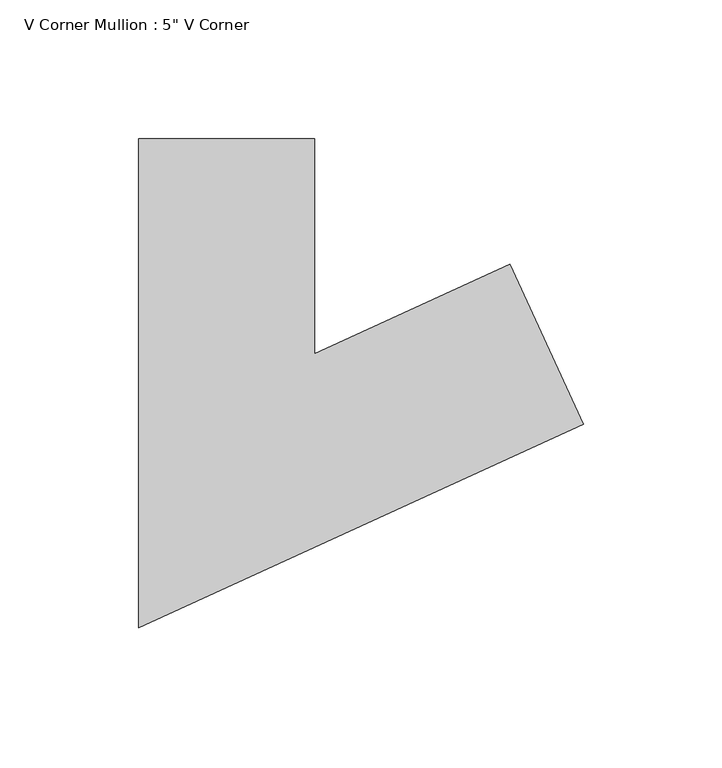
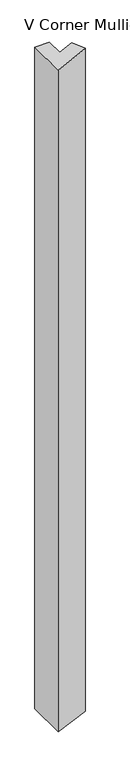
"""IFC4 building model written with IfcOpenShell, lengths in millimetres: member geometry."""

import ifcopenshell
import ifcopenshell.guid

model = None  # the IFC model being written
_history = None  # IfcOwnerHistory: only IFC2X3 demands one
_inside = {}  # id of a spatial element -> (the spatial element, [elements in it])
_under = {}  # id of a project, library or spatial element -> (it, [spatial elements below it])
_declared = {}  # id of a project -> (the project, [libraries it declares])
_typed = {}  # id of a type object -> (the type object, [elements of that type])
_made_of = {}  # id of a material, layer set ... -> (it, [elements and type objects made of it])


def new_model(schema):
    """Start an empty IFC model of exactly this schema.

    Asked for "IFC4X3", IfcOpenShell would pick the latest addendum, in which some entities
    have other attributes; the version numbers below select the first issue.
    IFC2X3 requires an IfcOwnerHistory on every rooted entity: one is made here for all.
    """
    global model, _history
    if schema == "IFC4X3":
        model = ifcopenshell.file(schema_version=(4, 3, 0, 0))
    else:
        model = ifcopenshell.file(schema=schema)
    _inside.clear()
    _under.clear()
    _declared.clear()
    _typed.clear()
    _made_of.clear()
    _history = None
    if model.schema == "IFC2X3":
        org = make("IfcOrganization", Name="unknown")
        user = make(
            "IfcPersonAndOrganization",
            ThePerson=make("IfcPerson", FamilyName="unknown"),
            TheOrganization=org,
        )
        app = make(
            "IfcApplication",
            ApplicationDeveloper=org,
            Version="unknown",
            ApplicationFullName="unknown",
            ApplicationIdentifier="unknown",
        )
        _history = make(
            "IfcOwnerHistory",
            OwningUser=user,
            OwningApplication=app,
            ChangeAction="ADDED",
            CreationDate=0,
        )
    return model


def make(cls, **values):
    """One entity of the class cls with the attributes given. An attribute that is None is left unset."""
    return model.create_entity(
        cls, **{name: value for name, value in values.items() if value is not None}
    )


def rooted(cls, **values):
    """An entity with a GlobalId (a new one), such as an element, a storey or a relation."""
    return make(cls, GlobalId=ifcopenshell.guid.new(), OwnerHistory=_history, **values)


def si_unit(unit_type, name, prefix=None):
    """IfcSIUnit, for example si_unit("LENGTHUNIT", "METRE", prefix="MILLI")."""
    return make("IfcSIUnit", UnitType=unit_type, Prefix=prefix, Name=name)


def assignment(units):
    """IfcUnitAssignment: the units of a project."""
    return None if units is None else make("IfcUnitAssignment", Units=units)


def point(xyz):
    """IfcCartesianPoint."""
    return None if xyz is None else make("IfcCartesianPoint", Coordinates=xyz)


def direction(xyz):
    """IfcDirection."""
    return None if xyz is None else make("IfcDirection", DirectionRatios=xyz)


def frame(location, z_axis=None, x_axis=None):
    """IfcAxis2Placement3D, a coordinate frame: its origin and axes. An axis left out is left unset."""
    return make(
        "IfcAxis2Placement3D",
        Location=point(location),
        Axis=direction(z_axis),
        RefDirection=direction(x_axis),
    )


def origin():
    """The frame at (0, 0, 0) with its axes left unset."""
    return frame((0.0, 0.0, 0.0))


def place(relative_to, where):
    """IfcLocalPlacement: puts the frame where relative to a parent placement (None: the world)."""
    return make(
        "IfcLocalPlacement", PlacementRelTo=relative_to, RelativePlacement=where
    )


def context(
    kind, dimensions, precision=None, world=None, true_north=None, identifier=None
):
    """IfcGeometricRepresentationContext, for example the 3D "Model" context."""
    return make(
        "IfcGeometricRepresentationContext",
        ContextIdentifier=identifier,
        ContextType=kind,
        CoordinateSpaceDimension=dimensions,
        Precision=precision,
        WorldCoordinateSystem=world,
        TrueNorth=true_north,
    )


def project(units=None, contexts=None):
    """IfcProject with its units and contexts."""
    return rooted(
        "IfcProject",
        Name="project",
        RepresentationContexts=contexts,
        UnitsInContext=assignment(units),
    )


def spatial(cls, under=None, at=None, **own):
    """A site, building, storey or space (cls), placed at a placement, below another one or the project."""
    s = rooted(cls, ObjectPlacement=at, **own)
    if under is not None:
        _under.setdefault(under.id(), (under, []))[1].append(s)
    return s


def faces_of(points, faces, orient=None, outer=None):
    """IfcFace entities. A face is a list of loops; a loop is a list of indices into points, from 0.

    orient and outer hold one flag for each loop. By default every Orientation is true, the
    first loop of a face is its IfcFaceOuterBound and the others are IfcFaceBound.
    """
    made = []
    for i, loops in enumerate(faces):
        bounds = []
        for j, loop in enumerate(loops):
            is_outer = j == 0 if outer is None else outer[i][j]
            bounds.append(
                make(
                    "IfcFaceOuterBound" if is_outer else "IfcFaceBound",
                    Bound=make("IfcPolyLoop", Polygon=[points[k] for k in loop]),
                    Orientation=True if orient is None else orient[i][j],
                )
            )
        made.append(make("IfcFace", Bounds=bounds))
    return made


def faceted_brep(points, faces, orient=None, outer=None, voids=None):
    """IfcFacetedBrep: a solid bounded by flat faces; with voids (closed shells), ...WithVoids."""
    shared = [point(p) for p in points]
    hull = make("IfcClosedShell", CfsFaces=faces_of(shared, faces, orient, outer))
    if voids is None:
        return make("IfcFacetedBrep", Outer=hull)
    return make(
        "IfcFacetedBrepWithVoids",
        Outer=hull,
        Voids=[
            make(cls, CfsFaces=faces_of(shared, fs, o, b)) for cls, fs, o, b in voids
        ],
    )


def shape(context_of_items, identifier, shape_type, items):
    """IfcShapeRepresentation: the items that make up one representation, for example the "Body"."""
    return make(
        "IfcShapeRepresentation",
        ContextOfItems=context_of_items,
        RepresentationIdentifier=identifier,
        RepresentationType=shape_type,
        Items=items,
    )


def source(mapping_origin, context_of_items, identifier, shape_type, items):
    """IfcRepresentationMap: a shape defined once, which mapped items show again and again."""
    return make(
        "IfcRepresentationMap",
        MappingOrigin=mapping_origin,
        MappedRepresentation=shape(context_of_items, identifier, shape_type, items),
    )


def transform(
    local_origin,
    x_axis=None,
    y_axis=None,
    z_axis=None,
    scale=None,
    scale2=None,
    scale3=None,
    uniform=True,
):
    """IfcCartesianTransformationOperator3D, or its non-uniform kind. x_axis, y_axis, z_axis: its Axis1, 2, 3."""
    if uniform:
        return make(
            "IfcCartesianTransformationOperator3D",
            Axis1=direction(x_axis),
            Axis2=direction(y_axis),
            LocalOrigin=point(local_origin),
            Scale=scale,
            Axis3=direction(z_axis),
        )
    return make(
        "IfcCartesianTransformationOperator3DnonUniform",
        Axis1=direction(x_axis),
        Axis2=direction(y_axis),
        LocalOrigin=point(local_origin),
        Scale=scale,
        Axis3=direction(z_axis),
        Scale2=scale2,
        Scale3=scale3,
    )


def mapped(mapping_source, mapping_target):
    """IfcMappedItem: shows the shape of a source again, moved by a transform."""
    return make(
        "IfcMappedItem", MappingSource=mapping_source, MappingTarget=mapping_target
    )


def made_of(thing, what):
    """Note that an element or type object is made of a material, layer set ...; save() writes the relation."""
    if what is not None:
        _made_of.setdefault(what.id(), (what, []))[1].append(thing)
    return thing


def element(
    cls,
    number,
    at=None,
    inside=None,
    cuts=None,
    type_object=None,
    material=None,
    context=None,
    identifier="Body",
    shape_type=None,
    held_by="IfcProductDefinitionShape",
    body=None,
    shapes=None,
    **own,
):
    """One element of the class cls, such as IfcWall. Its Tag is "e" and its number.

    at: its placement. inside: the storey or other place that contains it. cuts: it is an
    opening in that element (IfcRelVoidsElement). A single representation is given by context,
    identifier, shape_type and body (its items); several are given by shapes. held_by: the class
    of the entity that holds the representations. save() writes the other relations.
    """
    e = rooted(cls, Tag="e%d" % number, ObjectPlacement=at, **own)
    if body is not None:
        shapes = [shape(context, identifier, shape_type, body)]
    if shapes is not None:
        e.Representation = make(held_by, Representations=shapes)
    if inside is not None:
        _inside.setdefault(inside.id(), (inside, []))[1].append(e)
    if cuts is not None:
        rooted(
            "IfcRelVoidsElement", RelatingBuildingElement=cuts, RelatedOpeningElement=e
        )
    if type_object is not None:
        _typed.setdefault(type_object.id(), (type_object, []))[1].append(e)
    return made_of(e, material)


def aggregate(whole, parts):
    """IfcRelAggregates: a whole, such as a stair, and the parts it consists of."""
    return rooted("IfcRelAggregates", RelatingObject=whole, RelatedObjects=parts)


def save(model, path):
    """Write the relations noted so far, then the file.

    IfcRelAggregates (storeys below a building ...), IfcRelContainedInSpatialStructure (elements
    in a storey), IfcRelDefinesByType, IfcRelAssociatesMaterial and IfcRelDeclares: one each for
    every whole, place, type object, material and project.
    """
    for whole, parts in _under.values():
        aggregate(whole, parts)
    for where, things in _inside.values():
        rooted(
            "IfcRelContainedInSpatialStructure",
            RelatedElements=things,
            RelatingStructure=where,
        )
    for kind, things in _typed.values():
        rooted("IfcRelDefinesByType", RelatedObjects=things, RelatingType=kind)
    for what, things in _made_of.values():
        rooted("IfcRelAssociatesMaterial", RelatedObjects=things, RelatingMaterial=what)
    for by, libraries in _declared.values():
        rooted("IfcRelDeclares", RelatingContext=by, RelatedDefinitions=libraries)
    model.write(path)


def member_37f80dbb(model_context):
    return source(origin(), model_context, "Body", "Brep", [
        faceted_brep([(87.9205542, -39.5195451, 0.0), (61.49523, 18.2208415, 0.0), (-9.0228811, -14.0523047, 0.0), (-9.0228811, 63.5, 0.0), (-72.5228811, 63.5, 0.0), (-72.5228811, -112.9476953, 0.0), (87.9205542, -39.5195451, -3059.5545059), (61.49523, 18.2208415, -3058.4995925), (-9.0228811, -14.0523047, -3055.684471), (-9.0228811, 63.5, -3055.684471), (-72.5228811, 63.5, -3053.1495163), (-72.5228811, -112.9476953, -3053.1495163)], [[[0, 1, 2, 3, 4, 5]], [[1, 0, 6, 7]], [[2, 1, 7, 8]], [[3, 2, 8, 9]], [[4, 3, 9, 10]], [[5, 4, 10, 11]], [[0, 5, 11, 6]], [[6, 11, 10, 9, 8, 7]]]),
    ])


if __name__ == "__main__":
    model = new_model("IFC4")
    model_context = context("Model", 3, world=origin())
    ifc_project = project(units=[si_unit("LENGTHUNIT", "METRE", prefix="MILLI")], contexts=[model_context])
    site = spatial("IfcSite", under=ifc_project)
    building = spatial("IfcBuilding", under=site)
    placement = place(None, origin())
    member_shape = member_37f80dbb(model_context)
    element("IfcMember", 1, ObjectType="V Corner Mullion : 5\" V Corner", at=placement, inside=building, context=model_context, shape_type="MappedRepresentation", body=[
        mapped(member_shape, transform((0.0, 0.0, 0.0), x_axis=(1.0, 0.0, 0.0), y_axis=(0.0, 1.0, 0.0), z_axis=(0.0, 0.0, 1.0))),
    ])
    save(model, "model.ifc")
